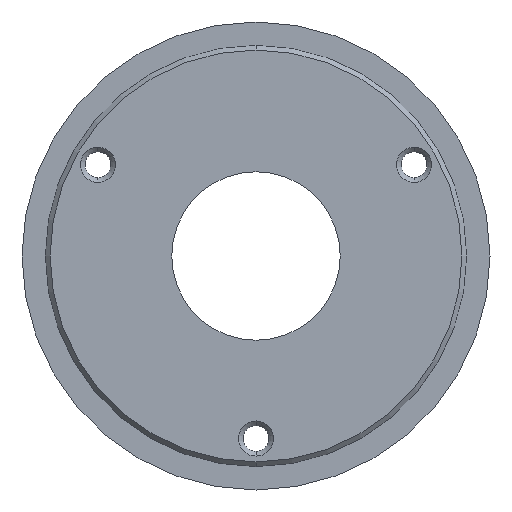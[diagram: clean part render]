
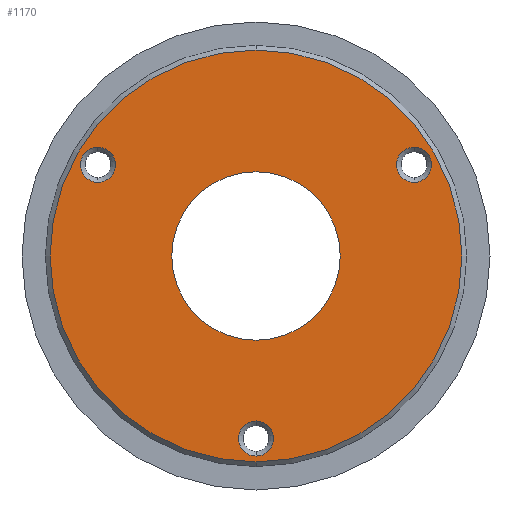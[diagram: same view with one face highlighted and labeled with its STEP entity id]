
A CAD part, front view. The second image highlights one B-rep face of the part: STEP entity #1170.
In plain terms, the highlighted planar face has unit normal (0, -1, 0).
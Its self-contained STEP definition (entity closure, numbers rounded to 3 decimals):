
#6 = DIRECTION ( 'NONE',  ( 0., 1., 0. ) ) ;
#8 = ORIENTED_EDGE ( 'NONE', *, *, #506, .F. ) ;
#43 = EDGE_CURVE ( 'NONE', #302, #1157, #675, .T. ) ;
#51 = DIRECTION ( 'NONE',  ( 0., 0., 1. ) ) ;
#61 = DIRECTION ( 'NONE',  ( 0., 1., 0. ) ) ;
#91 = EDGE_LOOP ( 'NONE', ( #174, #8 ) ) ;
#96 = CARTESIAN_POINT ( 'NONE',  ( 33.775, 0., 19.5 ) ) ;
#124 = FACE_BOUND ( 'NONE', #336, .T. ) ;
#144 = DIRECTION ( 'NONE',  ( 0., -1., 0. ) ) ;
#151 = DIRECTION ( 'NONE',  ( 0., 1., 0. ) ) ;
#159 = EDGE_CURVE ( 'NONE', #647, #184, #188, .T. ) ;
#161 = CARTESIAN_POINT ( 'NONE',  ( -33.775, 0., 15.75 ) ) ;
#174 = ORIENTED_EDGE ( 'NONE', *, *, #43, .F. ) ;
#184 = VERTEX_POINT ( 'NONE', #1193 ) ;
#188 = CIRCLE ( 'NONE', #1041, 44. ) ;
#189 = FACE_OUTER_BOUND ( 'NONE', #493, .T. ) ;
#197 = ORIENTED_EDGE ( 'NONE', *, *, #1121, .T. ) ;
#198 = ORIENTED_EDGE ( 'NONE', *, *, #509, .T. ) ;
#215 = CIRCLE ( 'NONE', #593, 3.75 ) ;
#242 = CARTESIAN_POINT ( 'NONE',  ( 33.775, 0., 23.25 ) ) ;
#259 = CARTESIAN_POINT ( 'NONE',  ( 33.775, 0., 19.5 ) ) ;
#264 = DIRECTION ( 'NONE',  ( 0., 0., 1. ) ) ;
#294 = EDGE_CURVE ( 'NONE', #487, #1120, #793, .T. ) ;
#302 = VERTEX_POINT ( 'NONE', #812 ) ;
#315 = AXIS2_PLACEMENT_3D ( 'NONE', #96, #948, #397 ) ;
#327 = DIRECTION ( 'NONE',  ( 0., 1., 0. ) ) ;
#336 = EDGE_LOOP ( 'NONE', ( #197, #198 ) ) ;
#344 = DIRECTION ( 'NONE',  ( 0., 1., 0. ) ) ;
#347 = AXIS2_PLACEMENT_3D ( 'NONE', #547, #61, #446 ) ;
#349 = DIRECTION ( 'NONE',  ( 0., -1., 0. ) ) ;
#362 = CARTESIAN_POINT ( 'NONE',  ( 33.775, 0., 15.75 ) ) ;
#363 = EDGE_CURVE ( 'NONE', #663, #908, #1017, .T. ) ;
#371 = CARTESIAN_POINT ( 'NONE',  ( 0., 0., 18. ) ) ;
#397 = DIRECTION ( 'NONE',  ( 0., 0., 1. ) ) ;
#410 = ORIENTED_EDGE ( 'NONE', *, *, #1179, .T. ) ;
#414 = ORIENTED_EDGE ( 'NONE', *, *, #363, .T. ) ;
#423 = ORIENTED_EDGE ( 'NONE', *, *, #468, .T. ) ;
#424 = EDGE_LOOP ( 'NONE', ( #414, #693 ) ) ;
#442 = CARTESIAN_POINT ( 'NONE',  ( -33.775, 0., 23.25 ) ) ;
#446 = DIRECTION ( 'NONE',  ( 0., 0., 1. ) ) ;
#450 = DIRECTION ( 'NONE',  ( 0., 0., 1. ) ) ;
#464 = CARTESIAN_POINT ( 'NONE',  ( -33.775, 0., 19.5 ) ) ;
#468 = EDGE_CURVE ( 'NONE', #184, #647, #505, .T. ) ;
#482 = AXIS2_PLACEMENT_3D ( 'NONE', #925, #349, #604 ) ;
#487 = VERTEX_POINT ( 'NONE', #362 ) ;
#493 = EDGE_LOOP ( 'NONE', ( #1036, #423 ) ) ;
#505 = CIRCLE ( 'NONE', #1136, 44. ) ;
#506 = EDGE_CURVE ( 'NONE', #1157, #302, #686, .T. ) ;
#509 = EDGE_CURVE ( 'NONE', #1014, #1018, #936, .T. ) ;
#535 = DIRECTION ( 'NONE',  ( 0., 0., 1. ) ) ;
#545 = AXIS2_PLACEMENT_3D ( 'NONE', #717, #327, #51 ) ;
#547 = CARTESIAN_POINT ( 'NONE',  ( -18., 0., 0. ) ) ;
#557 = ORIENTED_EDGE ( 'NONE', *, *, #294, .T. ) ;
#564 = CIRCLE ( 'NONE', #315, 3.75 ) ;
#568 = AXIS2_PLACEMENT_3D ( 'NONE', #1035, #6, #264 ) ;
#581 = CIRCLE ( 'NONE', #568, 3.75 ) ;
#593 = AXIS2_PLACEMENT_3D ( 'NONE', #464, #151, #535 ) ;
#597 = EDGE_LOOP ( 'NONE', ( #557, #410 ) ) ;
#604 = DIRECTION ( 'NONE',  ( 0., 0., -1. ) ) ;
#647 = VERTEX_POINT ( 'NONE', #1177 ) ;
#663 = VERTEX_POINT ( 'NONE', #1129 ) ;
#675 = CIRCLE ( 'NONE', #1022, 18. ) ;
#686 = CIRCLE ( 'NONE', #482, 18. ) ;
#693 = ORIENTED_EDGE ( 'NONE', *, *, #1040, .T. ) ;
#717 = CARTESIAN_POINT ( 'NONE',  ( 0., 0., -39. ) ) ;
#793 = CIRCLE ( 'NONE', #827, 3.75 ) ;
#796 = DIRECTION ( 'NONE',  ( 0., 0., 1. ) ) ;
#812 = CARTESIAN_POINT ( 'NONE',  ( 0., 0., -18. ) ) ;
#815 = PLANE ( 'NONE',  #347 ) ;
#823 = DIRECTION ( 'NONE',  ( 0., 1., 0. ) ) ;
#827 = AXIS2_PLACEMENT_3D ( 'NONE', #259, #823, #450 ) ;
#839 = CARTESIAN_POINT ( 'NONE',  ( 0., 0., 0. ) ) ;
#856 = DIRECTION ( 'NONE',  ( 0., -1., 0. ) ) ;
#859 = DIRECTION ( 'NONE',  ( 0., 0., -1. ) ) ;
#877 = FACE_BOUND ( 'NONE', #424, .T. ) ;
#905 = CARTESIAN_POINT ( 'NONE',  ( 0., 0., 0. ) ) ;
#908 = VERTEX_POINT ( 'NONE', #929 ) ;
#925 = CARTESIAN_POINT ( 'NONE',  ( 0., 0., 0. ) ) ;
#929 = CARTESIAN_POINT ( 'NONE',  ( 0., 0., -35.25 ) ) ;
#936 = CIRCLE ( 'NONE', #1053, 3.75 ) ;
#937 = DIRECTION ( 'NONE',  ( 0., 0., 1. ) ) ;
#948 = DIRECTION ( 'NONE',  ( 0., 1., 0. ) ) ;
#1014 = VERTEX_POINT ( 'NONE', #442 ) ;
#1017 = CIRCLE ( 'NONE', #545, 3.75 ) ;
#1018 = VERTEX_POINT ( 'NONE', #161 ) ;
#1022 = AXIS2_PLACEMENT_3D ( 'NONE', #1044, #856, #859 ) ;
#1035 = CARTESIAN_POINT ( 'NONE',  ( 0., 0., -39. ) ) ;
#1036 = ORIENTED_EDGE ( 'NONE', *, *, #159, .T. ) ;
#1040 = EDGE_CURVE ( 'NONE', #908, #663, #581, .T. ) ;
#1041 = AXIS2_PLACEMENT_3D ( 'NONE', #905, #144, #796 ) ;
#1044 = CARTESIAN_POINT ( 'NONE',  ( 0., 0., 0. ) ) ;
#1053 = AXIS2_PLACEMENT_3D ( 'NONE', #1107, #344, #1068 ) ;
#1068 = DIRECTION ( 'NONE',  ( 0., 0., 1. ) ) ;
#1097 = FACE_BOUND ( 'NONE', #91, .T. ) ;
#1107 = CARTESIAN_POINT ( 'NONE',  ( -33.775, 0., 19.5 ) ) ;
#1120 = VERTEX_POINT ( 'NONE', #242 ) ;
#1121 = EDGE_CURVE ( 'NONE', #1018, #1014, #215, .T. ) ;
#1125 = FACE_BOUND ( 'NONE', #597, .T. ) ;
#1129 = CARTESIAN_POINT ( 'NONE',  ( 0., 0., -42.75 ) ) ;
#1136 = AXIS2_PLACEMENT_3D ( 'NONE', #839, #1201, #937 ) ;
#1157 = VERTEX_POINT ( 'NONE', #371 ) ;
#1170 = ADVANCED_FACE ( 'NONE', ( #124, #1125, #877, #189, #1097 ), #815, .F. ) ;
#1177 = CARTESIAN_POINT ( 'NONE',  ( 0., 0., 44. ) ) ;
#1179 = EDGE_CURVE ( 'NONE', #1120, #487, #564, .T. ) ;
#1193 = CARTESIAN_POINT ( 'NONE',  ( 0., 0., -44. ) ) ;
#1201 = DIRECTION ( 'NONE',  ( 0., -1., 0. ) ) ;
